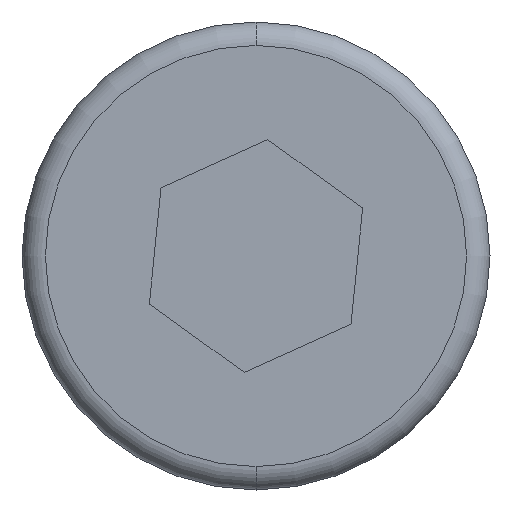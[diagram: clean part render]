
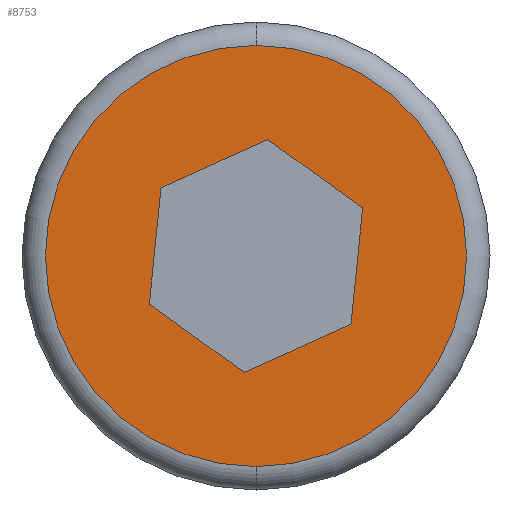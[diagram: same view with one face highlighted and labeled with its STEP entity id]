
A CAD part, front view. The second image highlights one B-rep face of the part: STEP entity #8753.
In plain terms, the highlighted planar face has unit normal (0, -1, 0).
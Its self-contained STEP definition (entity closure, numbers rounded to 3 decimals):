
#159 = CARTESIAN_POINT ( 'NONE',  ( 2.279, 0., 1.027 ) ) ;
#200 = VECTOR ( 'NONE', #6879, 1000. ) ;
#226 = PLANE ( 'NONE',  #10142 ) ;
#269 = VERTEX_POINT ( 'NONE', #4557 ) ;
#559 = VECTOR ( 'NONE', #13126, 1000. ) ;
#578 = VERTEX_POINT ( 'NONE', #13335 ) ;
#787 = CARTESIAN_POINT ( 'NONE',  ( 2.029, 0., -1.46 ) ) ;
#1377 = CARTESIAN_POINT ( 'NONE',  ( -2.279, 0., -1.027 ) ) ;
#1506 = VERTEX_POINT ( 'NONE', #9039 ) ;
#1680 = EDGE_CURVE ( 'NONE', #11590, #269, #6712, .T. ) ;
#2179 = LINE ( 'NONE', #787, #559 ) ;
#2305 = EDGE_CURVE ( 'NONE', #269, #12652, #9759, .T. ) ;
#3257 = ORIENTED_EDGE ( 'NONE', *, *, #2305, .F. ) ;
#3442 = DIRECTION ( 'NONE',  ( 0., 0., 1. ) ) ;
#3523 = EDGE_LOOP ( 'NONE', ( #5547, #12186, #11799, #3257, #4888, #11831 ) ) ;
#3569 = EDGE_CURVE ( 'NONE', #6547, #11383, #6081, .T. ) ;
#3767 = VECTOR ( 'NONE', #5509, 1000. ) ;
#3886 = DIRECTION ( 'NONE',  ( -0.912, 0., -0.411 ) ) ;
#4400 = CARTESIAN_POINT ( 'NONE',  ( 0.25, 0., 2.487 ) ) ;
#4557 = CARTESIAN_POINT ( 'NONE',  ( -2.029, 0., 1.46 ) ) ;
#4872 = DIRECTION ( 'NONE',  ( 0., -1., 0. ) ) ;
#4888 = ORIENTED_EDGE ( 'NONE', *, *, #1680, .F. ) ;
#4973 = VERTEX_POINT ( 'NONE', #159 ) ;
#5300 = CARTESIAN_POINT ( 'NONE',  ( 0.25, 0., 2.487 ) ) ;
#5509 = DIRECTION ( 'NONE',  ( -0.1, 0., -0.995 ) ) ;
#5547 = ORIENTED_EDGE ( 'NONE', *, *, #9011, .F. ) ;
#5998 = AXIS2_PLACEMENT_3D ( 'NONE', #10518, #4872, #3442 ) ;
#6078 = VECTOR ( 'NONE', #3886, 1000. ) ;
#6081 = CIRCLE ( 'NONE', #12166, 4.5 ) ;
#6434 = DIRECTION ( 'NONE',  ( 0., 0., 1. ) ) ;
#6547 = VERTEX_POINT ( 'NONE', #10303 ) ;
#6712 = LINE ( 'NONE', #5300, #6078 ) ;
#6856 = VECTOR ( 'NONE', #9464, 1000. ) ;
#6879 = DIRECTION ( 'NONE',  ( 0.912, 0., 0.411 ) ) ;
#6936 = CARTESIAN_POINT ( 'NONE',  ( -2.029, 0., 1.46 ) ) ;
#7326 = EDGE_CURVE ( 'NONE', #11383, #6547, #10301, .T. ) ;
#7827 = DIRECTION ( 'NONE',  ( 0., -1., 0. ) ) ;
#8037 = DIRECTION ( 'NONE',  ( 0.812, 0., -0.584 ) ) ;
#8275 = CARTESIAN_POINT ( 'NONE',  ( -0.25, 0., -2.487 ) ) ;
#8753 = ADVANCED_FACE ( 'NONE', ( #9060, #9412 ), #226, .F. ) ;
#8768 = VECTOR ( 'NONE', #8037, 1000. ) ;
#9011 = EDGE_CURVE ( 'NONE', #1506, #4973, #2179, .T. ) ;
#9039 = CARTESIAN_POINT ( 'NONE',  ( 2.029, 0., -1.46 ) ) ;
#9060 = FACE_OUTER_BOUND ( 'NONE', #12912, .T. ) ;
#9242 = ORIENTED_EDGE ( 'NONE', *, *, #7326, .T. ) ;
#9412 = FACE_BOUND ( 'NONE', #3523, .T. ) ;
#9454 = CARTESIAN_POINT ( 'NONE',  ( -2.279, 0., -1.027 ) ) ;
#9464 = DIRECTION ( 'NONE',  ( -0.812, 0., 0.584 ) ) ;
#9702 = LINE ( 'NONE', #8275, #200 ) ;
#9759 = LINE ( 'NONE', #6936, #3767 ) ;
#9768 = DIRECTION ( 'NONE',  ( 0., 0., 1. ) ) ;
#10142 = AXIS2_PLACEMENT_3D ( 'NONE', #12568, #11184, #9768 ) ;
#10274 = ORIENTED_EDGE ( 'NONE', *, *, #3569, .T. ) ;
#10301 = CIRCLE ( 'NONE', #5998, 4.5 ) ;
#10303 = CARTESIAN_POINT ( 'NONE',  ( 0., 0., -4.5 ) ) ;
#10312 = EDGE_CURVE ( 'NONE', #4973, #11590, #13650, .T. ) ;
#10518 = CARTESIAN_POINT ( 'NONE',  ( 0., 0., 0. ) ) ;
#10873 = CARTESIAN_POINT ( 'NONE',  ( 2.279, 0., 1.027 ) ) ;
#11184 = DIRECTION ( 'NONE',  ( 0., 1., 0. ) ) ;
#11383 = VERTEX_POINT ( 'NONE', #12046 ) ;
#11590 = VERTEX_POINT ( 'NONE', #4400 ) ;
#11799 = ORIENTED_EDGE ( 'NONE', *, *, #12573, .F. ) ;
#11831 = ORIENTED_EDGE ( 'NONE', *, *, #10312, .F. ) ;
#12046 = CARTESIAN_POINT ( 'NONE',  ( 0., 0., 4.5 ) ) ;
#12063 = CARTESIAN_POINT ( 'NONE',  ( 0., 0., 0. ) ) ;
#12166 = AXIS2_PLACEMENT_3D ( 'NONE', #12063, #7827, #6434 ) ;
#12186 = ORIENTED_EDGE ( 'NONE', *, *, #13713, .F. ) ;
#12568 = CARTESIAN_POINT ( 'NONE',  ( 0., 0., 0. ) ) ;
#12573 = EDGE_CURVE ( 'NONE', #12652, #578, #13639, .T. ) ;
#12652 = VERTEX_POINT ( 'NONE', #1377 ) ;
#12912 = EDGE_LOOP ( 'NONE', ( #9242, #10274 ) ) ;
#13126 = DIRECTION ( 'NONE',  ( 0.1, 0., 0.995 ) ) ;
#13335 = CARTESIAN_POINT ( 'NONE',  ( -0.25, 0., -2.487 ) ) ;
#13639 = LINE ( 'NONE', #9454, #8768 ) ;
#13650 = LINE ( 'NONE', #10873, #6856 ) ;
#13713 = EDGE_CURVE ( 'NONE', #578, #1506, #9702, .T. ) ;
